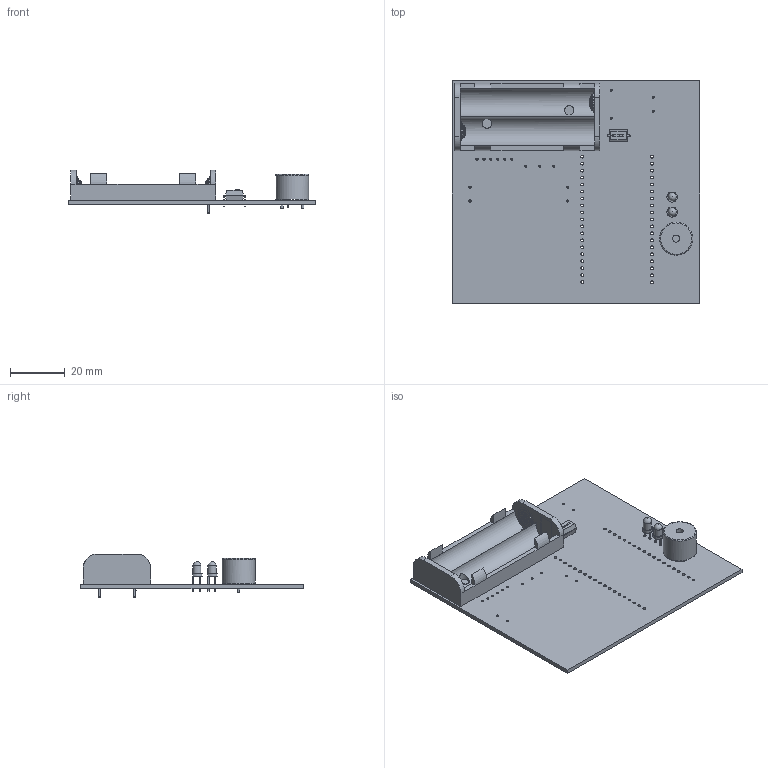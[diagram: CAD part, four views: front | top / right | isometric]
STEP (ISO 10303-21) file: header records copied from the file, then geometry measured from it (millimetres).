
FILE_DESCRIPTION(('KiCad electronic assembly'),'2;1');
FILE_NAME('Placa_PCI.step','2025-11-09T12:53:18',('Pcbnew'),('Kicad'), 'Open CASCADE STEP processor 7.9','KiCad to STEP converter','Unknown' );
FILE_SCHEMA(('AUTOMOTIVE_DESIGN { 1 0 10303 214 1 1 1 1 }'));
Length unit declared in the file: millimetre
Products named in the file (6): Placa_PCI 1; LED_D3.0mm; BatteryHolder_Keystone_2468_2xAAA; MagneticBuzzer_ProSignal_ABI-009-RC; SW_DIP_SPSTx01_Slide_6.7x4.1mm_W7.62mm_P2.54mm_LowProfile; Placa_PCI_PCB
Assembly tree (6 placements, depth 2):
  Placa_PCI 1
    LED_D3.0mm  x2
    BatteryHolder_Keystone_2468_2xAAA
    MagneticBuzzer_ProSignal_ABI-009-RC
    SW_DIP_SPSTx01_Slide_6.7x4.1mm_W7.62mm_P2.54mm_LowProfile
    Placa_PCI_PCB
Bounding box: 90 x 81 x 16 mm (x, y, z)
Volume: 15655.9 mm3; surface area: 21442.4 mm2
Topology: 15 solids, 15 shells, 275 faces, 673 edges, 437 vertices
Faces by surface type: plane 137, cylinder 112, bspline 16, torus 6, sphere 2, revolution 2
Full cylindrical faces by diameter (mm): 0.02 x1, 0.762 x17, 0.8 x4, 0.9 x6, 1 x2, 1.02 x40, 1.4 x2, 2.6 x1, 2.8 x4, 3 x2, 3.45 x2, 3.5 x2, 4.2 x4, 5.6 x4, 7 x2, 12 x1
Entity records: 9709 total; most frequent: CARTESIAN_POINT 1717, DIRECTION 1366, ORIENTED_EDGE 1266, EDGE_CURVE 633, AXIS2_PLACEMENT_3D 505, FACE_BOUND 431, EDGE_LOOP 431, VERTEX_POINT 418
